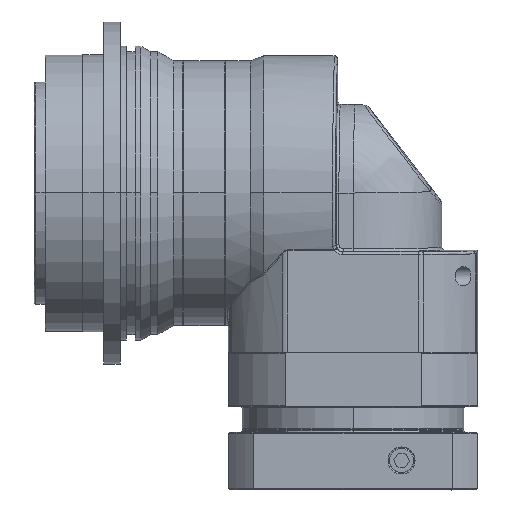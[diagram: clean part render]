
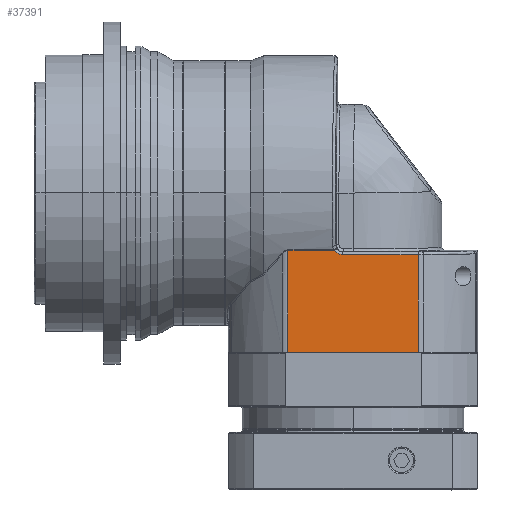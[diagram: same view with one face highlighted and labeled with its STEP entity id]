
A CAD part, top view. The second image highlights one B-rep face of the part: STEP entity #37391.
In plain terms, the highlighted planar face has unit normal (0, 0, 1) as drawn and (0, 1, 0) by its records, which use the part's own axes.
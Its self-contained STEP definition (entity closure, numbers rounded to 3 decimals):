
#2178 = CARTESIAN_POINT ( 'NONE',  ( -11.888, 90., 43.056 ) ) ;
#2645 = CARTESIAN_POINT ( 'NONE',  ( -13.058, 90., 41.928 ) ) ;
#3121 = CARTESIAN_POINT ( 'NONE',  ( -8.969, 90., 44.397 ) ) ;
#4772 = EDGE_CURVE ( 'NONE', #24550, #13292, #78801, .T. ) ;
#6557 = CARTESIAN_POINT ( 'NONE',  ( 46.931, 90., 115. ) ) ;
#8284 = EDGE_CURVE ( 'NONE', #13292, #78523, #84897, .T. ) ;
#9288 = CARTESIAN_POINT ( 'NONE',  ( -8.278, 90., 44.511 ) ) ;
#10719 = CARTESIAN_POINT ( 'NONE',  ( -12.165, 90., 42.824 ) ) ;
#11833 = EDGE_CURVE ( 'NONE', #14563, #24550, #43352, .T. ) ;
#12050 = EDGE_LOOP ( 'NONE', ( #68468, #47866, #49005, #76595, #41381, #75258 ) ) ;
#12996 = VECTOR ( 'NONE', #92924, 1000. ) ;
#13292 = VERTEX_POINT ( 'NONE', #53557 ) ;
#14148 = CARTESIAN_POINT ( 'NONE',  ( 46.931, 90., 115.8 ) ) ;
#14563 = VERTEX_POINT ( 'NONE', #17537 ) ;
#14570 = DIRECTION ( 'NONE',  ( -1., 0., 0. ) ) ;
#15061 = CARTESIAN_POINT ( 'NONE',  ( 46.931, 90., 44.536 ) ) ;
#15310 = VERTEX_POINT ( 'NONE', #6557 ) ;
#17537 = CARTESIAN_POINT ( 'NONE',  ( -7.578, 90., 44.536 ) ) ;
#17807 = CARTESIAN_POINT ( 'NONE',  ( -9.806, 90., 44.197 ) ) ;
#21930 = EDGE_CURVE ( 'NONE', #78523, #15310, #89655, .T. ) ;
#22563 = LINE ( 'NONE', #28309, #33888 ) ;
#24550 = VERTEX_POINT ( 'NONE', #36869 ) ;
#28309 = CARTESIAN_POINT ( 'NONE',  ( 46.931, 90., 44.536 ) ) ;
#31354 = CARTESIAN_POINT ( 'NONE',  ( 46.931, 90., 115. ) ) ;
#31579 = DIRECTION ( 'NONE',  ( 0., 0., -1. ) ) ;
#32047 = CARTESIAN_POINT ( 'NONE',  ( 46.931, 90., 115.8 ) ) ;
#33888 = VECTOR ( 'NONE', #14570, 1000. ) ;
#36869 = CARTESIAN_POINT ( 'NONE',  ( -13.374, 90., 41.461 ) ) ;
#37391 = ADVANCED_FACE ( 'NONE', ( #68717 ), #69201, .T. ) ;
#39571 = CARTESIAN_POINT ( 'NONE',  ( -12.248, 90., 42.751 ) ) ;
#41381 = ORIENTED_EDGE ( 'NONE', *, *, #59325, .T. ) ;
#43352 = B_SPLINE_CURVE_WITH_KNOTS ( 'NONE', 3,
 ( #68086, #82741, #9288, #54242, #3121, #45256, #82279, #17807, #46664, #75683, #88448, #2178, #47125, #10719, #45745, #39571, #74747, #2645, #68552 ),
 .UNSPECIFIED., .F., .F.,
 ( 4, 1, 1, 2, 2, 2, 1, 1, 1, 2, 2, 4 ),
 ( 0., 0.125, 0.187, 0.219, 0.25, 0.5, 0.625, 0.687, 0.719, 0.734, 0.75, 1. ),
 .UNSPECIFIED. ) ;
#45256 = CARTESIAN_POINT ( 'NONE',  ( -9.106, 90., 44.368 ) ) ;
#45745 = CARTESIAN_POINT ( 'NONE',  ( -12.22, 90., 42.776 ) ) ;
#46664 = CARTESIAN_POINT ( 'NONE',  ( -10.346, 90., 43.992 ) ) ;
#47125 = CARTESIAN_POINT ( 'NONE',  ( -12.083, 90., 42.895 ) ) ;
#47866 = ORIENTED_EDGE ( 'NONE', *, *, #8284, .T. ) ;
#49005 = ORIENTED_EDGE ( 'NONE', *, *, #21930, .T. ) ;
#51613 = CARTESIAN_POINT ( 'NONE',  ( -47.011, 90., 41.461 ) ) ;
#52630 = DIRECTION ( 'NONE',  ( 1., 0., 0. ) ) ;
#53334 = LINE ( 'NONE', #32047, #73641 ) ;
#53557 = CARTESIAN_POINT ( 'NONE',  ( -47.011, 90., 41.461 ) ) ;
#54242 = CARTESIAN_POINT ( 'NONE',  ( -8.762, 90., 44.438 ) ) ;
#59325 = EDGE_CURVE ( 'NONE', #93566, #14563, #22563, .T. ) ;
#60573 = EDGE_CURVE ( 'NONE', #15310, #93566, #53334, .T. ) ;
#63151 = CARTESIAN_POINT ( 'NONE',  ( -47.011, 90., 115.8 ) ) ;
#64405 = DIRECTION ( 'NONE',  ( 0., 1., 0. ) ) ;
#68086 = CARTESIAN_POINT ( 'NONE',  ( -7.578, 90., 44.536 ) ) ;
#68468 = ORIENTED_EDGE ( 'NONE', *, *, #4772, .T. ) ;
#68552 = CARTESIAN_POINT ( 'NONE',  ( -13.374, 90., 41.461 ) ) ;
#68717 = FACE_OUTER_BOUND ( 'NONE', #12050, .T. ) ;
#69201 = PLANE ( 'NONE',  #77330 ) ;
#72942 = DIRECTION ( 'NONE',  ( 0., 0., 1. ) ) ;
#72997 = VECTOR ( 'NONE', #52630, 1000. ) ;
#73641 = VECTOR ( 'NONE', #31579, 1000. ) ;
#74747 = CARTESIAN_POINT ( 'NONE',  ( -12.691, 90., 42.35 ) ) ;
#75258 = ORIENTED_EDGE ( 'NONE', *, *, #11833, .T. ) ;
#75683 = CARTESIAN_POINT ( 'NONE',  ( -11.115, 90., 43.584 ) ) ;
#76595 = ORIENTED_EDGE ( 'NONE', *, *, #60573, .T. ) ;
#77330 = AXIS2_PLACEMENT_3D ( 'NONE', #14148, #64405, #72942 ) ;
#77840 = CARTESIAN_POINT ( 'NONE',  ( -47.011, 90., 115. ) ) ;
#78523 = VERTEX_POINT ( 'NONE', #77840 ) ;
#78801 = LINE ( 'NONE', #51613, #88922 ) ;
#80646 = DIRECTION ( 'NONE',  ( -1., 0., 0. ) ) ;
#82279 = CARTESIAN_POINT ( 'NONE',  ( -9.173, 90., 44.353 ) ) ;
#82741 = CARTESIAN_POINT ( 'NONE',  ( -7.859, 90., 44.536 ) ) ;
#84897 = LINE ( 'NONE', #63151, #12996 ) ;
#88448 = CARTESIAN_POINT ( 'NONE',  ( -11.484, 90., 43.358 ) ) ;
#88922 = VECTOR ( 'NONE', #80646, 1000. ) ;
#89655 = LINE ( 'NONE', #31354, #72997 ) ;
#92924 = DIRECTION ( 'NONE',  ( 0., 0., 1. ) ) ;
#93566 = VERTEX_POINT ( 'NONE', #15061 ) ;
